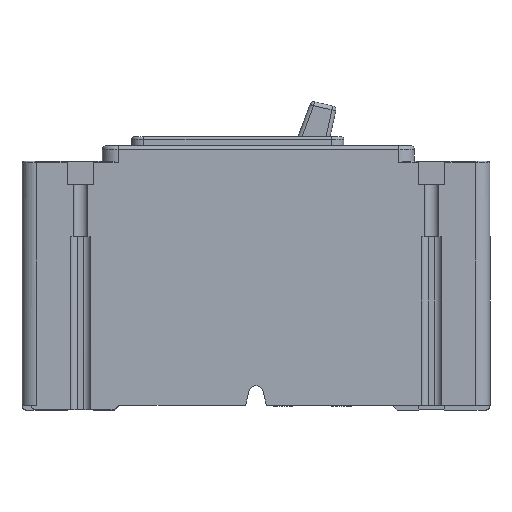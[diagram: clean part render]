
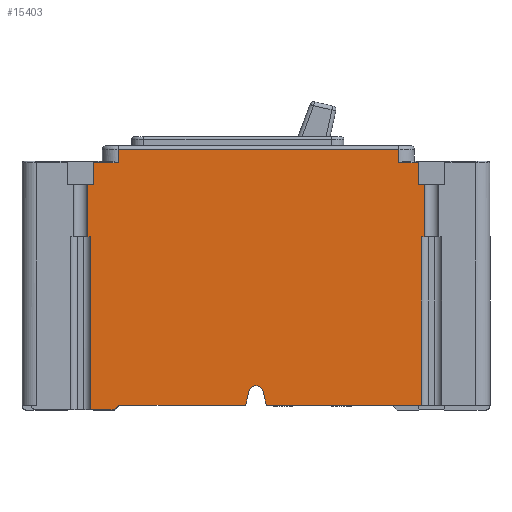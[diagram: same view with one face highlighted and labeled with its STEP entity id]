
A CAD part, left-side view. The second image highlights one B-rep face of the part: STEP entity #15403.
In plain terms, the highlighted planar face has unit normal (-1, 0, 0).
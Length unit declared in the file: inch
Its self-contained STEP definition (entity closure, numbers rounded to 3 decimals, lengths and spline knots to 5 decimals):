
#3741=CARTESIAN_POINT('',(0.,1.133,-0.033));
#3742=VERTEX_POINT('',#3741);
#3743=CARTESIAN_POINT('',(0.,0.88,-0.033));
#3744=VERTEX_POINT('',#3743);
#3745=CARTESIAN_POINT('',(0.,1.133,-0.033));
#3746=DIRECTION('',(0.,-1.0,0.));
#3747=VECTOR('',#3746,0.253);
#3748=LINE('',#3745,#3747);
#3749=EDGE_CURVE('',#3742,#3744,#3748,.T.);
#4038=CARTESIAN_POINT('',(0.,2.867,-0.033));
#4039=VERTEX_POINT('',#4038);
#4040=CARTESIAN_POINT('',(0.,1.133,-0.033));
#4041=DIRECTION('',(0.0,1.0,0.0));
#4042=VECTOR('',#4041,1.734);
#4043=LINE('',#4040,#4042);
#4044=EDGE_CURVE('',#3742,#4039,#4043,.T.);
#4351=CARTESIAN_POINT('',(0.,3.133,-0.033));
#4352=VERTEX_POINT('',#4351);
#4359=CARTESIAN_POINT('',(0.,4.76,-0.033));
#4360=VERTEX_POINT('',#4359);
#4361=CARTESIAN_POINT('',(0.,3.133,-0.033));
#4362=DIRECTION('',(0.0,1.0,0.0));
#4363=VECTOR('',#4362,1.627);
#4364=LINE('',#4361,#4363);
#4365=EDGE_CURVE('',#4352,#4360,#4364,.T.);
#4598=CARTESIAN_POINT('',(0.,2.90847,0.1444));
#4599=VERTEX_POINT('',#4598);
#4600=CARTESIAN_POINT('',(0.,2.90847,0.1444));
#4601=DIRECTION('',(0.,-0.228,-0.974));
#4602=VECTOR('',#4601,0.18218);
#4603=LINE('',#4600,#4602);
#4604=EDGE_CURVE('',#4599,#4039,#4603,.T.);
#4626=CARTESIAN_POINT('',(0.,3.09153,0.1444));
#4627=VERTEX_POINT('',#4626);
#4628=CARTESIAN_POINT('',(0.,3.,0.123));
#4629=DIRECTION('',(1.0,0.0,0.0));
#4630=DIRECTION('',(0.0,-0.974,0.228));
#4631=AXIS2_PLACEMENT_3D('',#4628,#4629,#4630);
#4632=CIRCLE('',#4631,0.094);
#4633=EDGE_CURVE('',#4627,#4599,#4632,.T.);
#4652=CARTESIAN_POINT('',(0.,3.133,-0.033));
#4653=DIRECTION('',(0.,-0.228,0.974));
#4654=VECTOR('',#4653,0.18218);
#4655=LINE('',#4652,#4654);
#4656=EDGE_CURVE('',#4352,#4627,#4655,.T.);
#15209=CARTESIAN_POINT('',(0.,5.078,3.076));
#15210=VERTEX_POINT('',#15209);
#15218=CARTESIAN_POINT('',(0.,4.769,3.076));
#15219=VERTEX_POINT('',#15218);
#15220=CARTESIAN_POINT('',(0.,5.078,3.076));
#15221=DIRECTION('',(0.,-1.0,0.));
#15222=VECTOR('',#15221,0.309);
#15223=LINE('',#15220,#15222);
#15224=EDGE_CURVE('',#15210,#15219,#15223,.T.);
#15244=CARTESIAN_POINT('',(0.,0.922,3.076));
#15245=VERTEX_POINT('',#15244);
#15254=CARTESIAN_POINT('',(0.,1.169,3.076));
#15255=VERTEX_POINT('',#15254);
#15265=CARTESIAN_POINT('',(0.,1.169,3.076));
#15266=DIRECTION('',(0.,-1.,0.));
#15267=VECTOR('',#15266,0.247);
#15268=LINE('',#15265,#15267);
#15269=EDGE_CURVE('',#15255,#15245,#15268,.T.);
#15274=CARTESIAN_POINT('',(0.,2.99934,1.60674));
#15275=DIRECTION('',(-1.0,0.0,0.0));
#15276=DIRECTION('',(0.0,0.0,1.0));
#15277=AXIS2_PLACEMENT_3D('',#15274,#15275,#15276);
#15278=PLANE('',#15277);
#15279=ORIENTED_EDGE('',*,*,#3749,.T.);
#15280=CARTESIAN_POINT('',(0.,0.88,2.127));
#15281=VERTEX_POINT('',#15280);
#15282=CARTESIAN_POINT('',(0.,0.88,-0.033));
#15283=DIRECTION('',(0.0,0.0,1.0));
#15284=VECTOR('',#15283,2.16);
#15285=LINE('',#15282,#15284);
#15286=EDGE_CURVE('',#3744,#15281,#15285,.T.);
#15287=ORIENTED_EDGE('',*,*,#15286,.T.);
#15288=CARTESIAN_POINT('',(0.,0.844,2.127));
#15289=VERTEX_POINT('',#15288);
#15290=CARTESIAN_POINT('',(0.,0.88,2.127));
#15291=DIRECTION('',(0.0,-1.0,0.0));
#15292=VECTOR('',#15291,0.036);
#15293=LINE('',#15290,#15292);
#15294=EDGE_CURVE('',#15281,#15289,#15293,.T.);
#15295=ORIENTED_EDGE('',*,*,#15294,.T.);
#15296=CARTESIAN_POINT('',(0.,0.844,2.799));
#15297=VERTEX_POINT('',#15296);
#15298=CARTESIAN_POINT('',(0.,0.844,2.127));
#15299=DIRECTION('',(0.0,0.0,1.0));
#15300=VECTOR('',#15299,0.672);
#15301=LINE('',#15298,#15300);
#15302=EDGE_CURVE('',#15289,#15297,#15301,.T.);
#15303=ORIENTED_EDGE('',*,*,#15302,.T.);
#15304=CARTESIAN_POINT('',(0.,0.922,2.799));
#15305=VERTEX_POINT('',#15304);
#15306=CARTESIAN_POINT('',(0.,0.844,2.799));
#15307=DIRECTION('',(0.0,1.0,0.0));
#15308=VECTOR('',#15307,0.078);
#15309=LINE('',#15306,#15308);
#15310=EDGE_CURVE('',#15297,#15305,#15309,.T.);
#15311=ORIENTED_EDGE('',*,*,#15310,.T.);
#15312=CARTESIAN_POINT('',(0.,0.922,2.799));
#15313=DIRECTION('',(0.0,0.0,1.0));
#15314=VECTOR('',#15313,0.277);
#15315=LINE('',#15312,#15314);
#15316=EDGE_CURVE('',#15305,#15245,#15315,.T.);
#15317=ORIENTED_EDGE('',*,*,#15316,.T.);
#15318=ORIENTED_EDGE('',*,*,#15269,.F.);
#15319=CARTESIAN_POINT('',(0.,1.169,3.243));
#15320=VERTEX_POINT('',#15319);
#15321=CARTESIAN_POINT('',(0.,1.169,3.243));
#15322=DIRECTION('',(0.,0.,-1.));
#15323=VECTOR('',#15322,0.167);
#15324=LINE('',#15321,#15323);
#15325=EDGE_CURVE('',#15320,#15255,#15324,.T.);
#15326=ORIENTED_EDGE('',*,*,#15325,.F.);
#15327=CARTESIAN_POINT('',(0.,4.769,3.243));
#15328=VERTEX_POINT('',#15327);
#15329=CARTESIAN_POINT('',(0.,4.769,3.243));
#15330=DIRECTION('',(0.0,-1.0,0.0));
#15331=VECTOR('',#15330,3.6);
#15332=LINE('',#15329,#15331);
#15333=EDGE_CURVE('',#15328,#15320,#15332,.T.);
#15334=ORIENTED_EDGE('',*,*,#15333,.F.);
#15335=CARTESIAN_POINT('',(0.,4.769,3.076));
#15336=DIRECTION('',(0.0,0.0,1.0));
#15337=VECTOR('',#15336,0.167);
#15338=LINE('',#15335,#15337);
#15339=EDGE_CURVE('',#15219,#15328,#15338,.T.);
#15340=ORIENTED_EDGE('',*,*,#15339,.F.);
#15341=ORIENTED_EDGE('',*,*,#15224,.F.);
#15342=CARTESIAN_POINT('',(0.,5.078,2.799));
#15343=VERTEX_POINT('',#15342);
#15344=CARTESIAN_POINT('',(0.,5.078,3.076));
#15345=DIRECTION('',(0.0,0.0,-1.0));
#15346=VECTOR('',#15345,0.277);
#15347=LINE('',#15344,#15346);
#15348=EDGE_CURVE('',#15210,#15343,#15347,.T.);
#15349=ORIENTED_EDGE('',*,*,#15348,.T.);
#15350=CARTESIAN_POINT('',(0.,5.156,2.799));
#15351=VERTEX_POINT('',#15350);
#15352=CARTESIAN_POINT('',(0.,5.078,2.799));
#15353=DIRECTION('',(0.0,1.0,0.0));
#15354=VECTOR('',#15353,0.078);
#15355=LINE('',#15352,#15354);
#15356=EDGE_CURVE('',#15343,#15351,#15355,.T.);
#15357=ORIENTED_EDGE('',*,*,#15356,.T.);
#15358=CARTESIAN_POINT('',(0.,5.156,2.127));
#15359=VERTEX_POINT('',#15358);
#15360=CARTESIAN_POINT('',(0.,5.156,2.799));
#15361=DIRECTION('',(0.0,0.0,-1.0));
#15362=VECTOR('',#15361,0.672);
#15363=LINE('',#15360,#15362);
#15364=EDGE_CURVE('',#15351,#15359,#15363,.T.);
#15365=ORIENTED_EDGE('',*,*,#15364,.T.);
#15366=CARTESIAN_POINT('',(0.,5.12,2.127));
#15367=VERTEX_POINT('',#15366);
#15368=CARTESIAN_POINT('',(0.,5.156,2.127));
#15369=DIRECTION('',(0.0,-1.0,0.0));
#15370=VECTOR('',#15369,0.036);
#15371=LINE('',#15368,#15370);
#15372=EDGE_CURVE('',#15359,#15367,#15371,.T.);
#15373=ORIENTED_EDGE('',*,*,#15372,.T.);
#15374=CARTESIAN_POINT('',(0.,5.12,-0.09273));
#15375=VERTEX_POINT('',#15374);
#15376=CARTESIAN_POINT('',(0.,5.12,2.127));
#15377=DIRECTION('',(0.0,0.0,-1.0));
#15378=VECTOR('',#15377,2.21973);
#15379=LINE('',#15376,#15378);
#15380=EDGE_CURVE('',#15367,#15375,#15379,.T.);
#15381=ORIENTED_EDGE('',*,*,#15380,.T.);
#15382=CARTESIAN_POINT('',(0.,4.82,-0.093));
#15383=VERTEX_POINT('',#15382);
#15384=CARTESIAN_POINT('',(0.,4.82,-0.093));
#15385=DIRECTION('',(0.,1.,0.001));
#15386=VECTOR('',#15385,0.3);
#15387=LINE('',#15384,#15386);
#15388=EDGE_CURVE('',#15383,#15375,#15387,.T.);
#15389=ORIENTED_EDGE('',*,*,#15388,.F.);
#15390=CARTESIAN_POINT('',(0.,4.76,-0.033));
#15391=DIRECTION('',(0.,0.707,-0.707));
#15392=VECTOR('',#15391,0.08485);
#15393=LINE('',#15390,#15392);
#15394=EDGE_CURVE('',#4360,#15383,#15393,.T.);
#15395=ORIENTED_EDGE('',*,*,#15394,.F.);
#15396=ORIENTED_EDGE('',*,*,#4365,.F.);
#15397=ORIENTED_EDGE('',*,*,#4656,.T.);
#15398=ORIENTED_EDGE('',*,*,#4633,.T.);
#15399=ORIENTED_EDGE('',*,*,#4604,.T.);
#15400=ORIENTED_EDGE('',*,*,#4044,.F.);
#15401=EDGE_LOOP('',(#15279,#15287,#15295,#15303,#15311,#15317,#15318,#15326,#15334,#15340,#15341,#15349,#15357,#15365,#15373,#15381,#15389,#15395,#15396,#15397,#15398,#15399,#15400));
#15402=FACE_OUTER_BOUND('',#15401,.T.);
#15403=ADVANCED_FACE('',(#15402),#15278,.T.);
